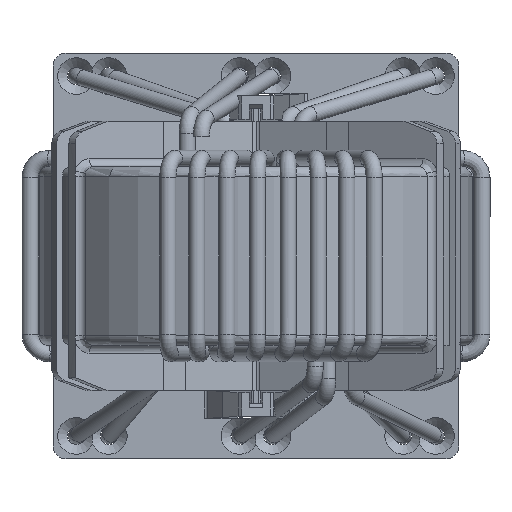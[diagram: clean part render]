
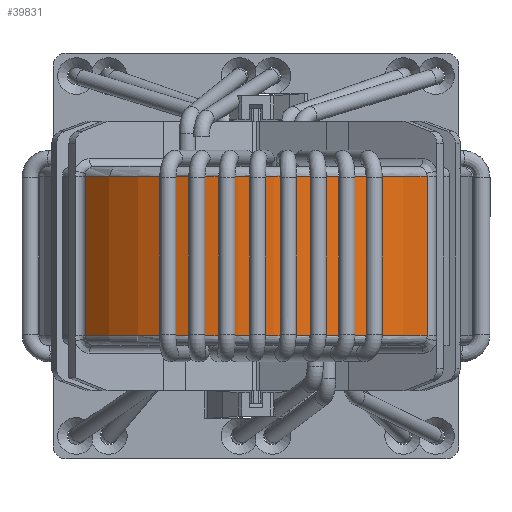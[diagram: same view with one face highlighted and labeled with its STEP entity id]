
A CAD part, left-side view. The second image highlights one B-rep face of the part: STEP entity #39831.
In plain terms, the highlighted cylindrical face has radius 33.7 mm (diameter 67.4 mm), a partial arc.
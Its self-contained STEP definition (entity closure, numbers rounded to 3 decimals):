
#22517=CARTESIAN_POINT('',(-20.738,-26.564,1.5));
#22518=VERTEX_POINT('',#22517);
#22526=CARTESIAN_POINT('',(-20.757,26.549,1.5));
#22527=VERTEX_POINT('',#22526);
#22528=CARTESIAN_POINT('',(0.,0.,1.5));
#22529=DIRECTION('',(0.,0.,-1.0));
#22530=DIRECTION('',(-1.,0.,0.));
#22531=AXIS2_PLACEMENT_3D('',#22528,#22529,#22530);
#22532=CIRCLE('',#22531,33.7);
#22533=EDGE_CURVE('',#22518,#22527,#22532,.T.);
#39689=CARTESIAN_POINT('',(-20.738,-26.564,26.3));
#39690=VERTEX_POINT('',#39689);
#39720=CARTESIAN_POINT('',(-20.738,-26.564,26.3));
#39721=DIRECTION('',(0.0,0.0,-1.0));
#39722=VECTOR('',#39721,24.8);
#39723=LINE('',#39720,#39722);
#39724=EDGE_CURVE('',#39690,#22518,#39723,.T.);
#39807=CARTESIAN_POINT('',(0.,0.,13.9));
#39808=DIRECTION('',(0.,0.,1.0));
#39809=DIRECTION('',(-0.5,-0.866,0.));
#39810=AXIS2_PLACEMENT_3D('',#39807,#39808,#39809);
#39811=CYLINDRICAL_SURFACE('',#39810,33.7);
#39812=ORIENTED_EDGE('',*,*,#39724,.F.);
#39813=CARTESIAN_POINT('',(-20.757,26.549,26.3));
#39814=VERTEX_POINT('',#39813);
#39815=CARTESIAN_POINT('',(0.,0.,26.3));
#39816=DIRECTION('',(0.,0.,1.0));
#39817=DIRECTION('',(-1.,0.,0.));
#39818=AXIS2_PLACEMENT_3D('',#39815,#39816,#39817);
#39819=CIRCLE('',#39818,33.7);
#39820=EDGE_CURVE('',#39814,#39690,#39819,.T.);
#39821=ORIENTED_EDGE('',*,*,#39820,.F.);
#39822=CARTESIAN_POINT('',(-20.757,26.549,1.5));
#39823=DIRECTION('',(0.0,0.0,1.0));
#39824=VECTOR('',#39823,24.8);
#39825=LINE('',#39822,#39824);
#39826=EDGE_CURVE('',#22527,#39814,#39825,.T.);
#39827=ORIENTED_EDGE('',*,*,#39826,.F.);
#39828=ORIENTED_EDGE('',*,*,#22533,.F.);
#39829=EDGE_LOOP('',(#39812,#39821,#39827,#39828));
#39830=FACE_OUTER_BOUND('',#39829,.T.);
#39831=ADVANCED_FACE('',(#39830),#39811,.T.);
